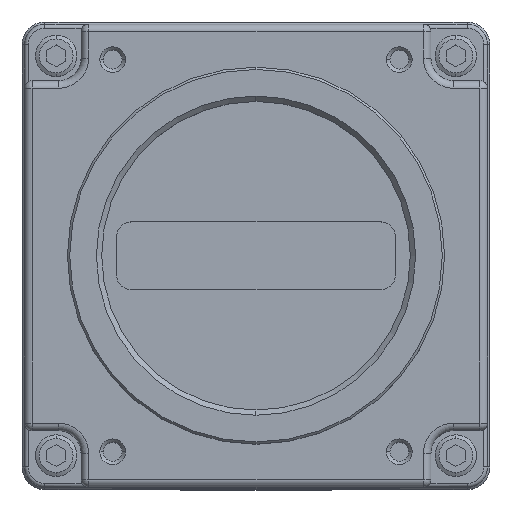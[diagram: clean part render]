
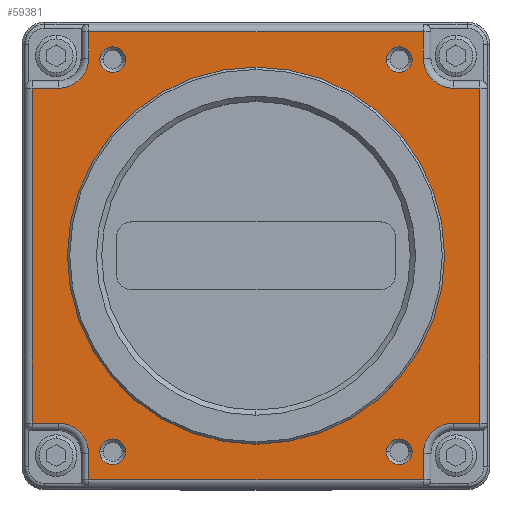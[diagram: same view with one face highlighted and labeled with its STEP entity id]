
A CAD part, top view. The second image highlights one B-rep face of the part: STEP entity #59381.
In plain terms, the highlighted planar face has unit normal (0, 0, 1).
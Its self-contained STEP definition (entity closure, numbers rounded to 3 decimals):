
#3792=CARTESIAN_POINT('',(-26.2,26.2,6.8));
#3793=DIRECTION('',(0.,0.,1.));
#3794=DIRECTION('',(0.,-1.,0.));
#3795=AXIS2_PLACEMENT_3D('',#3792,#3793,#3794);
#3797=CARTESIAN_POINT('',(26.2,26.2,6.8));
#3798=DIRECTION('',(0.,0.,1.));
#3799=DIRECTION('',(-1.,0.,0.));
#3800=AXIS2_PLACEMENT_3D('',#3797,#3798,#3799);
#3802=CARTESIAN_POINT('',(26.2,-26.2,6.8));
#3803=DIRECTION('',(0.,0.,1.));
#3804=DIRECTION('',(0.,1.,0.));
#3805=AXIS2_PLACEMENT_3D('',#3802,#3803,#3804);
#3807=CARTESIAN_POINT('',(-26.2,-26.2,6.8));
#3808=DIRECTION('',(0.,0.,1.));
#3809=DIRECTION('',(1.,0.,0.));
#3810=AXIS2_PLACEMENT_3D('',#3807,#3808,#3809);
#3812=CARTESIAN_POINT('',(0.,0.,6.8));
#3813=DIRECTION('',(0.,0.,1.));
#3814=DIRECTION('',(1.,0.,0.));
#3815=AXIS2_PLACEMENT_3D('',#3812,#3813,#3814);
#3817=CARTESIAN_POINT('',(0.,0.,6.8));
#3818=DIRECTION('',(0.,0.,1.));
#3819=DIRECTION('',(-1.,0.,0.));
#3820=AXIS2_PLACEMENT_3D('',#3817,#3818,#3819);
#3822=CARTESIAN_POINT('',(19.,26.,6.8));
#3823=DIRECTION('',(0.,0.,1.));
#3824=DIRECTION('',(1.,0.,0.));
#3825=AXIS2_PLACEMENT_3D('',#3822,#3823,#3824);
#3827=CARTESIAN_POINT('',(19.,26.,6.8));
#3828=DIRECTION('',(0.,0.,1.));
#3829=DIRECTION('',(-1.,0.,0.));
#3830=AXIS2_PLACEMENT_3D('',#3827,#3828,#3829);
#3832=CARTESIAN_POINT('',(-19.,26.,6.8));
#3833=DIRECTION('',(0.,0.,1.));
#3834=DIRECTION('',(1.,0.,0.));
#3835=AXIS2_PLACEMENT_3D('',#3832,#3833,#3834);
#3837=CARTESIAN_POINT('',(-19.,26.,6.8));
#3838=DIRECTION('',(0.,0.,1.));
#3839=DIRECTION('',(-1.,0.,0.));
#3840=AXIS2_PLACEMENT_3D('',#3837,#3838,#3839);
#3842=CARTESIAN_POINT('',(19.,-26.,6.8));
#3843=DIRECTION('',(0.,0.,1.));
#3844=DIRECTION('',(1.,0.,0.));
#3845=AXIS2_PLACEMENT_3D('',#3842,#3843,#3844);
#3847=CARTESIAN_POINT('',(19.,-26.,6.8));
#3848=DIRECTION('',(0.,0.,1.));
#3849=DIRECTION('',(-1.,0.,0.));
#3850=AXIS2_PLACEMENT_3D('',#3847,#3848,#3849);
#3852=CARTESIAN_POINT('',(-19.,-26.,6.8));
#3853=DIRECTION('',(0.,0.,1.));
#3854=DIRECTION('',(1.,0.,0.));
#3855=AXIS2_PLACEMENT_3D('',#3852,#3853,#3854);
#3857=CARTESIAN_POINT('',(-19.,-26.,6.8));
#3858=DIRECTION('',(0.,0.,1.));
#3859=DIRECTION('',(-1.,0.,0.));
#3860=AXIS2_PLACEMENT_3D('',#3857,#3858,#3859);
#3862=DIRECTION('',(0.,-1.,0.));
#3863=VECTOR('',#3862,44.4);
#3864=CARTESIAN_POINT('',(-29.7,22.2,6.8));
#3865=LINE('',#3864,#3863);
#3996=DIRECTION('',(0.,-1.,0.));
#3997=VECTOR('',#3996,3.5);
#3998=CARTESIAN_POINT('',(-22.2,-26.2,6.8));
#3999=LINE('',#3998,#3997);
#4015=DIRECTION('',(1.,0.,0.));
#4016=VECTOR('',#4015,44.4);
#4017=CARTESIAN_POINT('',(-22.2,-29.7,6.8));
#4018=LINE('',#4017,#4016);
#4038=DIRECTION('',(0.,1.,0.));
#4039=VECTOR('',#4038,3.5);
#4040=CARTESIAN_POINT('',(22.2,-29.7,6.8));
#4041=LINE('',#4040,#4039);
#4065=DIRECTION('',(1.,0.,0.));
#4066=VECTOR('',#4065,3.5);
#4067=CARTESIAN_POINT('',(26.2,-22.2,6.8));
#4068=LINE('',#4067,#4066);
#4473=DIRECTION('',(0.,1.,0.));
#4474=VECTOR('',#4473,3.5);
#4475=CARTESIAN_POINT('',(22.2,26.2,6.8));
#4476=LINE('',#4475,#4474);
#4492=DIRECTION('',(-1.,0.,0.));
#4493=VECTOR('',#4492,44.4);
#4494=CARTESIAN_POINT('',(22.2,29.7,6.8));
#4495=LINE('',#4494,#4493);
#4515=DIRECTION('',(0.,-1.,0.));
#4516=VECTOR('',#4515,3.5);
#4517=CARTESIAN_POINT('',(-22.2,29.7,6.8));
#4518=LINE('',#4517,#4516);
#4542=DIRECTION('',(-1.,0.,0.));
#4543=VECTOR('',#4542,3.5);
#4544=CARTESIAN_POINT('',(-26.2,22.2,6.8));
#4545=LINE('',#4544,#4543);
#4823=DIRECTION('',(-1.,0.,0.));
#4824=VECTOR('',#4823,3.5);
#4825=CARTESIAN_POINT('',(29.7,22.2,6.8));
#4826=LINE('',#4825,#4824);
#4871=DIRECTION('',(0.,1.,0.));
#4872=VECTOR('',#4871,44.4);
#4873=CARTESIAN_POINT('',(29.7,-22.2,6.8));
#4874=LINE('',#4873,#4872);
#46769=DIRECTION('',(1.,0.,0.));
#46770=VECTOR('',#46769,3.5);
#46771=CARTESIAN_POINT('',(-29.7,-22.2,6.8));
#46772=LINE('',#46771,#46770);
#47257=CARTESIAN_POINT('',(-17.3,26.,6.8));
#47258=VERTEX_POINT('',#47257);
#47259=CARTESIAN_POINT('',(-20.7,26.,6.8));
#47260=VERTEX_POINT('',#47259);
#47261=CARTESIAN_POINT('',(-29.7,22.2,6.8));
#47262=CARTESIAN_POINT('',(-29.7,-22.2,6.8));
#47263=VERTEX_POINT('',#47261);
#47264=VERTEX_POINT('',#47262);
#47265=CARTESIAN_POINT('',(-26.2,22.2,6.8));
#47266=VERTEX_POINT('',#47265);
#47267=CARTESIAN_POINT('',(-22.2,26.2,6.8));
#47268=VERTEX_POINT('',#47267);
#47269=CARTESIAN_POINT('',(-22.2,29.7,6.8));
#47270=VERTEX_POINT('',#47269);
#47271=CARTESIAN_POINT('',(22.2,29.7,6.8));
#47272=VERTEX_POINT('',#47271);
#47273=CARTESIAN_POINT('',(22.2,26.2,6.8));
#47274=VERTEX_POINT('',#47273);
#47275=CARTESIAN_POINT('',(26.2,22.2,6.8));
#47276=VERTEX_POINT('',#47275);
#47277=CARTESIAN_POINT('',(29.7,22.2,6.8));
#47278=VERTEX_POINT('',#47277);
#47279=CARTESIAN_POINT('',(29.7,-22.2,6.8));
#47280=VERTEX_POINT('',#47279);
#47281=CARTESIAN_POINT('',(26.2,-22.2,6.8));
#47282=VERTEX_POINT('',#47281);
#47283=CARTESIAN_POINT('',(22.2,-26.2,6.8));
#47284=VERTEX_POINT('',#47283);
#47285=CARTESIAN_POINT('',(22.2,-29.7,6.8));
#47286=VERTEX_POINT('',#47285);
#47287=CARTESIAN_POINT('',(-22.2,-29.7,6.8));
#47288=VERTEX_POINT('',#47287);
#47289=CARTESIAN_POINT('',(-22.2,-26.2,6.8));
#47290=VERTEX_POINT('',#47289);
#47291=CARTESIAN_POINT('',(-26.2,-22.2,6.8));
#47292=VERTEX_POINT('',#47291);
#47293=CARTESIAN_POINT('',(25.,0.,6.8));
#47294=CARTESIAN_POINT('',(-25.,0.,6.8));
#47295=VERTEX_POINT('',#47293);
#47296=VERTEX_POINT('',#47294);
#47297=CARTESIAN_POINT('',(20.7,26.,6.8));
#47298=CARTESIAN_POINT('',(17.3,26.,6.8));
#47299=VERTEX_POINT('',#47297);
#47300=VERTEX_POINT('',#47298);
#47301=CARTESIAN_POINT('',(20.7,-26.,6.8));
#47302=CARTESIAN_POINT('',(17.3,-26.,6.8));
#47303=VERTEX_POINT('',#47301);
#47304=VERTEX_POINT('',#47302);
#47305=CARTESIAN_POINT('',(-17.3,-26.,6.8));
#47306=CARTESIAN_POINT('',(-20.7,-26.,6.8));
#47307=VERTEX_POINT('',#47305);
#47308=VERTEX_POINT('',#47306);
#59314=CARTESIAN_POINT('',(0.,0.,6.8));
#59315=DIRECTION('',(0.,0.,1.));
#59316=DIRECTION('',(1.,0.,0.));
#59317=AXIS2_PLACEMENT_3D('',#59314,#59315,#59316);
#59318=PLANE('',#59317);
#59320=ORIENTED_EDGE('',*,*,#59319,.F.);
#59322=ORIENTED_EDGE('',*,*,#59321,.F.);
#59324=ORIENTED_EDGE('',*,*,#59323,.T.);
#59326=ORIENTED_EDGE('',*,*,#59325,.F.);
#59328=ORIENTED_EDGE('',*,*,#59327,.F.);
#59330=ORIENTED_EDGE('',*,*,#59329,.F.);
#59332=ORIENTED_EDGE('',*,*,#59331,.T.);
#59334=ORIENTED_EDGE('',*,*,#59333,.F.);
#59336=ORIENTED_EDGE('',*,*,#59335,.F.);
#59338=ORIENTED_EDGE('',*,*,#59337,.F.);
#59340=ORIENTED_EDGE('',*,*,#59339,.T.);
#59342=ORIENTED_EDGE('',*,*,#59341,.F.);
#59344=ORIENTED_EDGE('',*,*,#59343,.F.);
#59346=ORIENTED_EDGE('',*,*,#59345,.F.);
#59348=ORIENTED_EDGE('',*,*,#59347,.T.);
#59350=ORIENTED_EDGE('',*,*,#59349,.F.);
#59351=EDGE_LOOP('',(#59320,#59322,#59324,#59326,#59328,#59330,#59332,#59334,
#59336,#59338,#59340,#59342,#59344,#59346,#59348,#59350));
#59352=FACE_OUTER_BOUND('',#59351,.F.);
#59354=ORIENTED_EDGE('',*,*,#59353,.T.);
#59356=ORIENTED_EDGE('',*,*,#59355,.T.);
#59357=EDGE_LOOP('',(#59354,#59356));
#59358=FACE_BOUND('',#59357,.F.);
#59360=ORIENTED_EDGE('',*,*,#59359,.T.);
#59362=ORIENTED_EDGE('',*,*,#59361,.T.);
#59363=EDGE_LOOP('',(#59360,#59362));
#59364=FACE_BOUND('',#59363,.F.);
#59365=ORIENTED_EDGE('',*,*,#59306,.T.);
#59366=ORIENTED_EDGE('',*,*,#59294,.T.);
#59367=EDGE_LOOP('',(#59365,#59366));
#59368=FACE_BOUND('',#59367,.F.);
#59370=ORIENTED_EDGE('',*,*,#59369,.T.);
#59372=ORIENTED_EDGE('',*,*,#59371,.T.);
#59373=EDGE_LOOP('',(#59370,#59372));
#59374=FACE_BOUND('',#59373,.F.);
#59376=ORIENTED_EDGE('',*,*,#59375,.T.);
#59378=ORIENTED_EDGE('',*,*,#59377,.T.);
#59379=EDGE_LOOP('',(#59376,#59378));
#59380=FACE_BOUND('',#59379,.F.);
#59381=ADVANCED_FACE('',(#59352,#59358,#59364,#59368,#59374,#59380),#59318,.T.);
#3796=CIRCLE('',#3795,4.);
#3801=CIRCLE('',#3800,4.);
#3806=CIRCLE('',#3805,4.);
#3811=CIRCLE('',#3810,4.);
#3816=CIRCLE('',#3815,25.);
#3821=CIRCLE('',#3820,25.);
#3826=CIRCLE('',#3825,1.7);
#3831=CIRCLE('',#3830,1.7);
#3836=CIRCLE('',#3835,1.7);
#3841=CIRCLE('',#3840,1.7);
#3846=CIRCLE('',#3845,1.7);
#3851=CIRCLE('',#3850,1.7);
#3856=CIRCLE('',#3855,1.7);
#3861=CIRCLE('',#3860,1.7);
#59294=EDGE_CURVE('',#47260,#47258,#3841,.T.);
#59306=EDGE_CURVE('',#47258,#47260,#3836,.T.);
#59319=EDGE_CURVE('',#47263,#47264,#3865,.T.);
#59321=EDGE_CURVE('',#47266,#47263,#4545,.T.);
#59323=EDGE_CURVE('',#47266,#47268,#3796,.T.);
#59325=EDGE_CURVE('',#47270,#47268,#4518,.T.);
#59327=EDGE_CURVE('',#47272,#47270,#4495,.T.);
#59329=EDGE_CURVE('',#47274,#47272,#4476,.T.);
#59331=EDGE_CURVE('',#47274,#47276,#3801,.T.);
#59333=EDGE_CURVE('',#47278,#47276,#4826,.T.);
#59335=EDGE_CURVE('',#47280,#47278,#4874,.T.);
#59337=EDGE_CURVE('',#47282,#47280,#4068,.T.);
#59339=EDGE_CURVE('',#47282,#47284,#3806,.T.);
#59341=EDGE_CURVE('',#47286,#47284,#4041,.T.);
#59343=EDGE_CURVE('',#47288,#47286,#4018,.T.);
#59345=EDGE_CURVE('',#47290,#47288,#3999,.T.);
#59347=EDGE_CURVE('',#47290,#47292,#3811,.T.);
#59349=EDGE_CURVE('',#47264,#47292,#46772,.T.);
#59353=EDGE_CURVE('',#47295,#47296,#3816,.T.);
#59355=EDGE_CURVE('',#47296,#47295,#3821,.T.);
#59359=EDGE_CURVE('',#47299,#47300,#3826,.T.);
#59361=EDGE_CURVE('',#47300,#47299,#3831,.T.);
#59369=EDGE_CURVE('',#47303,#47304,#3846,.T.);
#59371=EDGE_CURVE('',#47304,#47303,#3851,.T.);
#59375=EDGE_CURVE('',#47307,#47308,#3856,.T.);
#59377=EDGE_CURVE('',#47308,#47307,#3861,.T.);
